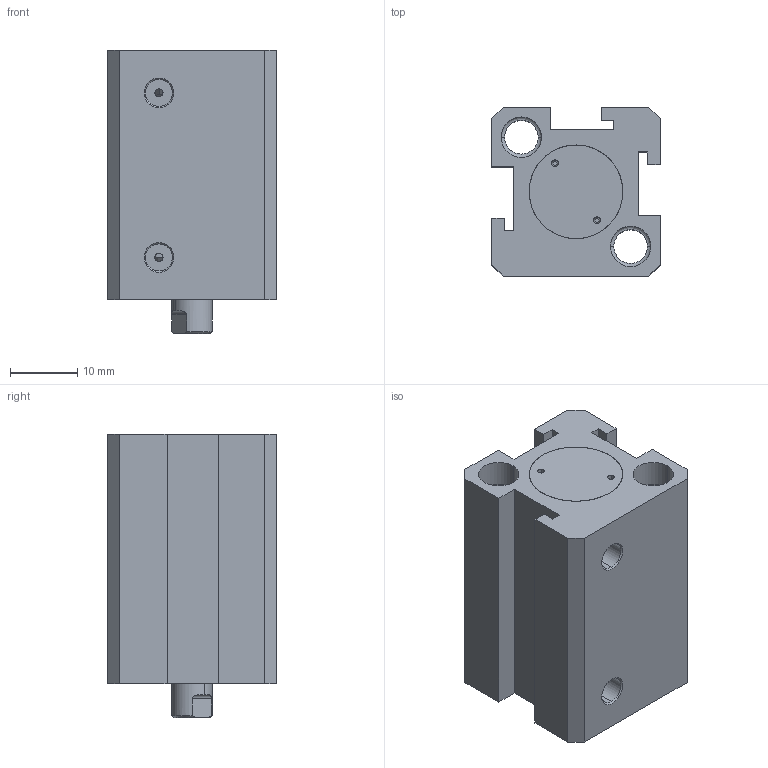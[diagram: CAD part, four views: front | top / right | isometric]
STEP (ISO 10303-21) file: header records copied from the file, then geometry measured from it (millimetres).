
FILE_DESCRIPTION (( 'STEP AP203' ), '1' );
FILE_NAME ('SDA-S-12X10CYLINDER.STEP', '2015-07-27T07:31:59', ( 'user' ), ( '' ), 'SwSTEP 2.0', 'SolidWorks 2013', '' );
FILE_SCHEMA (( 'CONFIG_CONTROL_DESIGN' ));
Length unit declared in the file: millimetre
Products named in the file (5): SDA-S 12 烰 KAPAK; SDA-S-12X10CYLINDER; SDA-S 12X10 BORU; SDA-S 12X10 M尳 VE TOP; SDA-S 12 ARKA KAPAK
Assembly tree (4 placements, depth 2):
  SDA-S-12X10CYLINDER
    SDA-S 12X10 BORU
    SDA-S 12X10 M尳 VE TOP
    SDA-S 12 ARKA KAPAK
    SDA-S 12 烰 KAPAK
Bounding box: 25 x 25 x 42 mm (x, y, z)
Volume: 16689.8 mm3; surface area: 11207.9 mm2
Topology: 4 solids, 4 shells, 177 faces, 409 edges, 264 vertices
Faces by surface type: cylinder 81, plane 62, bspline 22, cone 12
Entity records: 6592 total; most frequent: CARTESIAN_POINT 2054, DIRECTION 863, ORIENTED_EDGE 818, EDGE_CURVE 409, AXIS2_PLACEMENT_3D 343, VERTEX_POINT 264, EDGE_LOOP 213, CIRCLE 182
